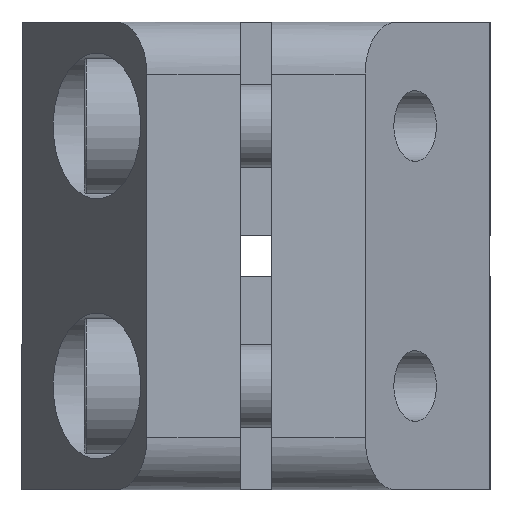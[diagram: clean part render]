
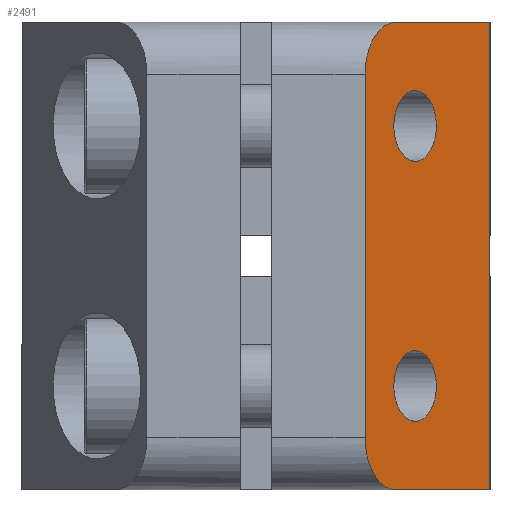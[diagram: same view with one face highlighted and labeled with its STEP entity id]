
A CAD part, left-side view. The second image highlights one B-rep face of the part: STEP entity #2491.
In plain terms, the highlighted planar face has unit normal (-0.514, -0.858, 0).
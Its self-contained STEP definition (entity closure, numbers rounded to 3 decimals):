
#7 = LINE ( 'NONE', #1127, #820 ) ;
#21 = PLANE ( 'NONE',  #869 ) ;
#29 = VERTEX_POINT ( 'NONE', #3029 ) ;
#93 = LINE ( 'NONE', #279, #1524 ) ;
#97 = VERTEX_POINT ( 'NONE', #3548 ) ;
#107 = CARTESIAN_POINT ( 'NONE',  ( 8., 7.2, 38.4 ) ) ;
#221 = CARTESIAN_POINT ( 'NONE',  ( 8., 7.2, 13.4 ) ) ;
#279 = CARTESIAN_POINT ( 'NONE',  ( 20., 0., 45. ) ) ;
#283 = VERTEX_POINT ( 'NONE', #1235 ) ;
#333 = CARTESIAN_POINT ( 'NONE',  ( 0., 12., 40. ) ) ;
#376 = EDGE_CURVE ( 'NONE', #509, #447, #1382, .T. ) ;
#447 = VERTEX_POINT ( 'NONE', #3512 ) ;
#468 =( BOUNDED_CURVE ( )  B_SPLINE_CURVE ( 3, ( #107, #2609, #2867, #1491 ),
 .UNSPECIFIED., .F., .F. ) 
 B_SPLINE_CURVE_WITH_KNOTS ( ( 4, 4 ),
 ( 1.571, 4.712 ),
 .UNSPECIFIED. ) 
 CURVE ( )  GEOMETRIC_REPRESENTATION_ITEM ( )  RATIONAL_B_SPLINE_CURVE ( ( 1., 0.333, 0.333, 1. ) ) 
 REPRESENTATION_ITEM ( '' )  );
#492 = LINE ( 'NONE', #915, #1242 ) ;
#509 = VERTEX_POINT ( 'NONE', #2419 ) ;
#528 = CARTESIAN_POINT ( 'NONE',  ( 8., 7.2, 6.6 ) ) ;
#613 = CARTESIAN_POINT ( 'NONE',  ( 14.8, 3.12, 13.4 ) ) ;
#623 = CARTESIAN_POINT ( 'NONE',  ( 8., 7.2, 13.4 ) ) ;
#647 = VERTEX_POINT ( 'NONE', #1597 ) ;
#665 = CARTESIAN_POINT ( 'NONE',  ( 8., 7.2, 38.4 ) ) ;
#694 = CARTESIAN_POINT ( 'NONE',  ( 5., 9., 45. ) ) ;
#769 = CARTESIAN_POINT ( 'NONE',  ( 20., 0., 0. ) ) ;
#820 = VECTOR ( 'NONE', #2783, 1000. ) ;
#869 = AXIS2_PLACEMENT_3D ( 'NONE', #3385, #1993, #1146 ) ;
#915 = CARTESIAN_POINT ( 'NONE',  ( 0., 12., 0. ) ) ;
#930 = ORIENTED_EDGE ( 'NONE', *, *, #1503, .F. ) ;
#953 = CARTESIAN_POINT ( 'NONE',  ( 0., 12., 2.071 ) ) ;
#1066 = FACE_BOUND ( 'NONE', #3252, .T. ) ;
#1071 = EDGE_CURVE ( 'NONE', #447, #509, #468, .T. ) ;
#1125 = ORIENTED_EDGE ( 'NONE', *, *, #1386, .T. ) ;
#1127 = CARTESIAN_POINT ( 'NONE',  ( 20., 0., 0. ) ) ;
#1142 = FACE_BOUND ( 'NONE', #3449, .T. ) ;
#1146 = DIRECTION ( 'NONE',  ( -0.857, 0.514, 0. ) ) ;
#1175 = ORIENTED_EDGE ( 'NONE', *, *, #1311, .T. ) ;
#1199 = ORIENTED_EDGE ( 'NONE', *, *, #2690, .T. ) ;
#1222 = CARTESIAN_POINT ( 'NONE',  ( 14.8, 3.12, 6.6 ) ) ;
#1235 = CARTESIAN_POINT ( 'NONE',  ( 8., 7.2, 13.4 ) ) ;
#1242 = VECTOR ( 'NONE', #1966, 1000. ) ;
#1297 = CARTESIAN_POINT ( 'NONE',  ( 20., 0., 0. ) ) ;
#1303 = ORIENTED_EDGE ( 'NONE', *, *, #376, .T. ) ;
#1311 = EDGE_CURVE ( 'NONE', #2854, #97, #3363, .T. ) ;
#1312 = CARTESIAN_POINT ( 'NONE',  ( 5., 9., 0. ) ) ;
#1347 = EDGE_CURVE ( 'NONE', #2676, #97, #492, .T. ) ;
#1382 =( BOUNDED_CURVE ( )  B_SPLINE_CURVE ( 3, ( #2281, #2006, #3007, #665 ),
 .UNSPECIFIED., .F., .T. ) 
 B_SPLINE_CURVE_WITH_KNOTS ( ( 4, 4 ),
 ( 4.712, 7.854 ),
 .UNSPECIFIED. ) 
 CURVE ( )  GEOMETRIC_REPRESENTATION_ITEM ( )  RATIONAL_B_SPLINE_CURVE ( ( 1., 0.333, 0.333, 1. ) ) 
 REPRESENTATION_ITEM ( '' )  );
#1386 = EDGE_CURVE ( 'NONE', #2676, #3053, #2114, .T. ) ;
#1416 = ORIENTED_EDGE ( 'NONE', *, *, #3033, .T. ) ;
#1491 = CARTESIAN_POINT ( 'NONE',  ( 8., 7.2, 31.6 ) ) ;
#1503 = EDGE_CURVE ( 'NONE', #2129, #3053, #7, .T. ) ;
#1524 = VECTOR ( 'NONE', #2495, 1000. ) ;
#1530 = ORIENTED_EDGE ( 'NONE', *, *, #3264, .T. ) ;
#1597 = CARTESIAN_POINT ( 'NONE',  ( 20., 0., 45. ) ) ;
#1780 = ORIENTED_EDGE ( 'NONE', *, *, #3395, .T. ) ;
#1844 = VECTOR ( 'NONE', #2916, 1000. ) ;
#1890 = CARTESIAN_POINT ( 'NONE',  ( 1.2, 11.28, 6.6 ) ) ;
#1904 = CARTESIAN_POINT ( 'NONE',  ( 1.2, 11.28, 13.4 ) ) ;
#1966 = DIRECTION ( 'NONE',  ( 0., 0., 1. ) ) ;
#1993 = DIRECTION ( 'NONE',  ( 0.514, 0.857, 0. ) ) ;
#1994 = CARTESIAN_POINT ( 'NONE',  ( 0., 12., 42.929 ) ) ;
#2006 = CARTESIAN_POINT ( 'NONE',  ( 1.2, 11.28, 31.6 ) ) ;
#2065 = CARTESIAN_POINT ( 'NONE',  ( 5., 9., 45. ) ) ;
#2114 =( BOUNDED_CURVE ( )  B_SPLINE_CURVE ( 3, ( #2557, #953, #2748, #2546 ),
 .UNSPECIFIED., .F., .F. ) 
 B_SPLINE_CURVE_WITH_KNOTS ( ( 4, 4 ),
 ( 0., 1.571 ),
 .UNSPECIFIED. ) 
 CURVE ( )  GEOMETRIC_REPRESENTATION_ITEM ( )  RATIONAL_B_SPLINE_CURVE ( ( 1., 0.805, 0.805, 1. ) ) 
 REPRESENTATION_ITEM ( '' )  );
#2129 = VERTEX_POINT ( 'NONE', #769 ) ;
#2281 = CARTESIAN_POINT ( 'NONE',  ( 8., 7.2, 31.6 ) ) ;
#2419 = CARTESIAN_POINT ( 'NONE',  ( 8., 7.2, 31.6 ) ) ;
#2491 = ADVANCED_FACE ( 'NONE', ( #1066, #1142, #3122 ), #21, .F. ) ;
#2495 = DIRECTION ( 'NONE',  ( -0.857, 0.514, 0. ) ) ;
#2546 = CARTESIAN_POINT ( 'NONE',  ( 5., 9., 0. ) ) ;
#2557 = CARTESIAN_POINT ( 'NONE',  ( 0., 12., 5. ) ) ;
#2564 = LINE ( 'NONE', #1297, #1844 ) ;
#2609 = CARTESIAN_POINT ( 'NONE',  ( 14.8, 3.12, 38.4 ) ) ;
#2670 = ORIENTED_EDGE ( 'NONE', *, *, #1071, .T. ) ;
#2676 = VERTEX_POINT ( 'NONE', #3367 ) ;
#2690 = EDGE_CURVE ( 'NONE', #283, #29, #3106, .T. ) ;
#2748 = CARTESIAN_POINT ( 'NONE',  ( 2.071, 10.757, 0. ) ) ;
#2783 = DIRECTION ( 'NONE',  ( -0.857, 0.514, 0. ) ) ;
#2854 = VERTEX_POINT ( 'NONE', #694 ) ;
#2867 = CARTESIAN_POINT ( 'NONE',  ( 14.8, 3.12, 31.6 ) ) ;
#2916 = DIRECTION ( 'NONE',  ( 0., 0., 1. ) ) ;
#3007 = CARTESIAN_POINT ( 'NONE',  ( 1.2, 11.28, 38.4 ) ) ;
#3029 = CARTESIAN_POINT ( 'NONE',  ( 8., 7.2, 6.6 ) ) ;
#3033 = EDGE_CURVE ( 'NONE', #2129, #647, #2564, .T. ) ;
#3053 = VERTEX_POINT ( 'NONE', #1312 ) ;
#3106 =( BOUNDED_CURVE ( )  B_SPLINE_CURVE ( 3, ( #623, #613, #1222, #528 ),
 .UNSPECIFIED., .F., .F. ) 
 B_SPLINE_CURVE_WITH_KNOTS ( ( 4, 4 ),
 ( 1.571, 4.712 ),
 .UNSPECIFIED. ) 
 CURVE ( )  GEOMETRIC_REPRESENTATION_ITEM ( )  RATIONAL_B_SPLINE_CURVE ( ( 1., 0.333, 0.333, 1. ) ) 
 REPRESENTATION_ITEM ( '' )  );
#3122 = FACE_OUTER_BOUND ( 'NONE', #3302, .T. ) ;
#3247 = CARTESIAN_POINT ( 'NONE',  ( 8., 7.2, 6.6 ) ) ;
#3252 = EDGE_LOOP ( 'NONE', ( #1199, #1530 ) ) ;
#3264 = EDGE_CURVE ( 'NONE', #29, #283, #3476, .T. ) ;
#3302 = EDGE_LOOP ( 'NONE', ( #3429, #1125, #930, #1416, #1780, #1175 ) ) ;
#3363 =( BOUNDED_CURVE ( )  B_SPLINE_CURVE ( 3, ( #2065, #3492, #1994, #333 ),
 .UNSPECIFIED., .F., .F. ) 
 B_SPLINE_CURVE_WITH_KNOTS ( ( 4, 4 ),
 ( 1.571, 3.142 ),
 .UNSPECIFIED. ) 
 CURVE ( )  GEOMETRIC_REPRESENTATION_ITEM ( )  RATIONAL_B_SPLINE_CURVE ( ( 1., 0.805, 0.805, 1. ) ) 
 REPRESENTATION_ITEM ( '' )  );
#3367 = CARTESIAN_POINT ( 'NONE',  ( 0., 12., 5. ) ) ;
#3385 = CARTESIAN_POINT ( 'NONE',  ( 20., 0., 0. ) ) ;
#3395 = EDGE_CURVE ( 'NONE', #647, #2854, #93, .T. ) ;
#3429 = ORIENTED_EDGE ( 'NONE', *, *, #1347, .F. ) ;
#3449 = EDGE_LOOP ( 'NONE', ( #2670, #1303 ) ) ;
#3476 =( BOUNDED_CURVE ( )  B_SPLINE_CURVE ( 3, ( #3247, #1890, #1904, #221 ),
 .UNSPECIFIED., .F., .F. ) 
 B_SPLINE_CURVE_WITH_KNOTS ( ( 4, 4 ),
 ( 4.712, 7.854 ),
 .UNSPECIFIED. ) 
 CURVE ( )  GEOMETRIC_REPRESENTATION_ITEM ( )  RATIONAL_B_SPLINE_CURVE ( ( 1., 0.333, 0.333, 1. ) ) 
 REPRESENTATION_ITEM ( '' )  );
#3492 = CARTESIAN_POINT ( 'NONE',  ( 2.071, 10.757, 45. ) ) ;
#3512 = CARTESIAN_POINT ( 'NONE',  ( 8., 7.2, 38.4 ) ) ;
#3548 = CARTESIAN_POINT ( 'NONE',  ( 0., 12., 40. ) ) ;
